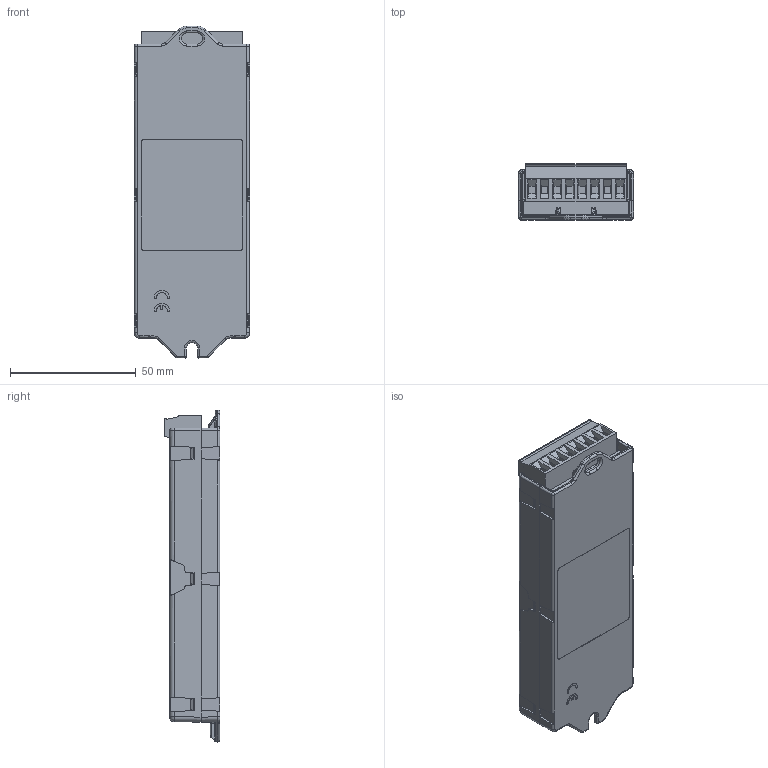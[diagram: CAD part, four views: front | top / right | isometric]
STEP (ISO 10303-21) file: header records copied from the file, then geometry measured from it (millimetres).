
FILE_DESCRIPTION(/* description */ (''),/* implementation_level */ '2;1');
FILE_NAME(/* name */ 'KNX_RF_Blue_IO_552_CV_secure.stp',/* time_stamp */ '2025-10-02T15:08:48+02:00',/* author */ (''),/* organization */ (''),/* preprocessor_version */ 'ST-DEVELOPER v20',/* originating_system */ 'Autodesk Inventor 2025',/* authorisation */ '');
FILE_SCHEMA (('AUTOMOTIVE_DESIGN { 1 0 10303 214 3 1 1 }'));
Length unit declared in the file: millimetre
Products named in the file (1): KNX_RF_Blue_IO_552_CV_secure
Bounding box: 46 x 22.18 x 132.17 mm (x, y, z)
Volume: 104073.9 mm3; surface area: 22961.9 mm2
Topology: 1 solids, 1 shells, 1129 faces, 3113 edges, 1935 vertices
Faces by surface type: plane 633, cylinder 302, bspline 111, torus 51, cone 20, sphere 12
Full cylindrical faces by diameter (mm): 3.5 x3, 4 x19
Entity records: 39727 total; most frequent: CARTESIAN_POINT 9845, ORIENTED_EDGE 6188, DIRECTION 5849, EDGE_CURVE 3094, LINE 2025, VECTOR 2025, VERTEX_POINT 1935, AXIS2_PLACEMENT_3D 1912
